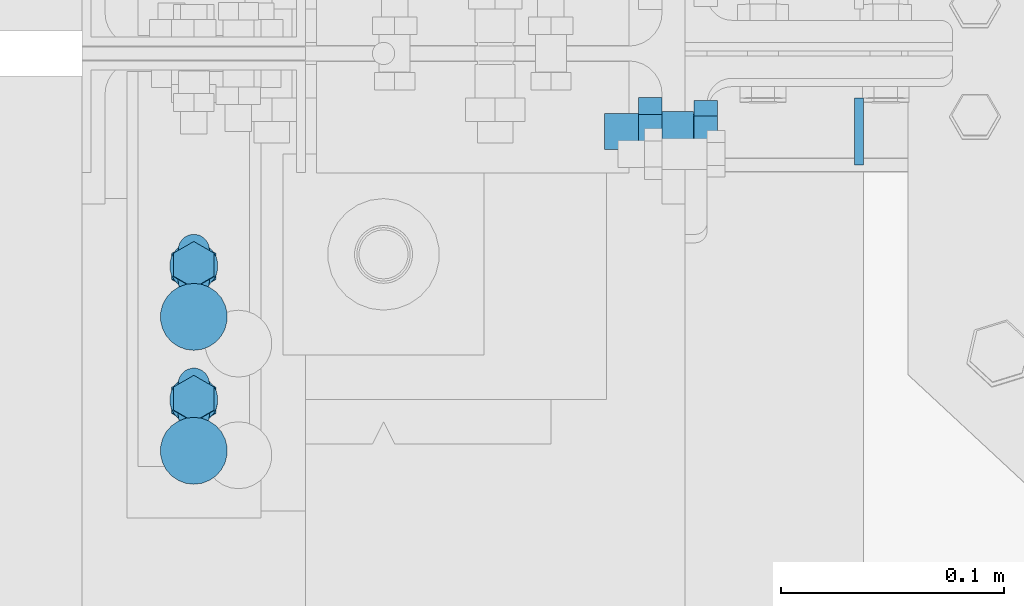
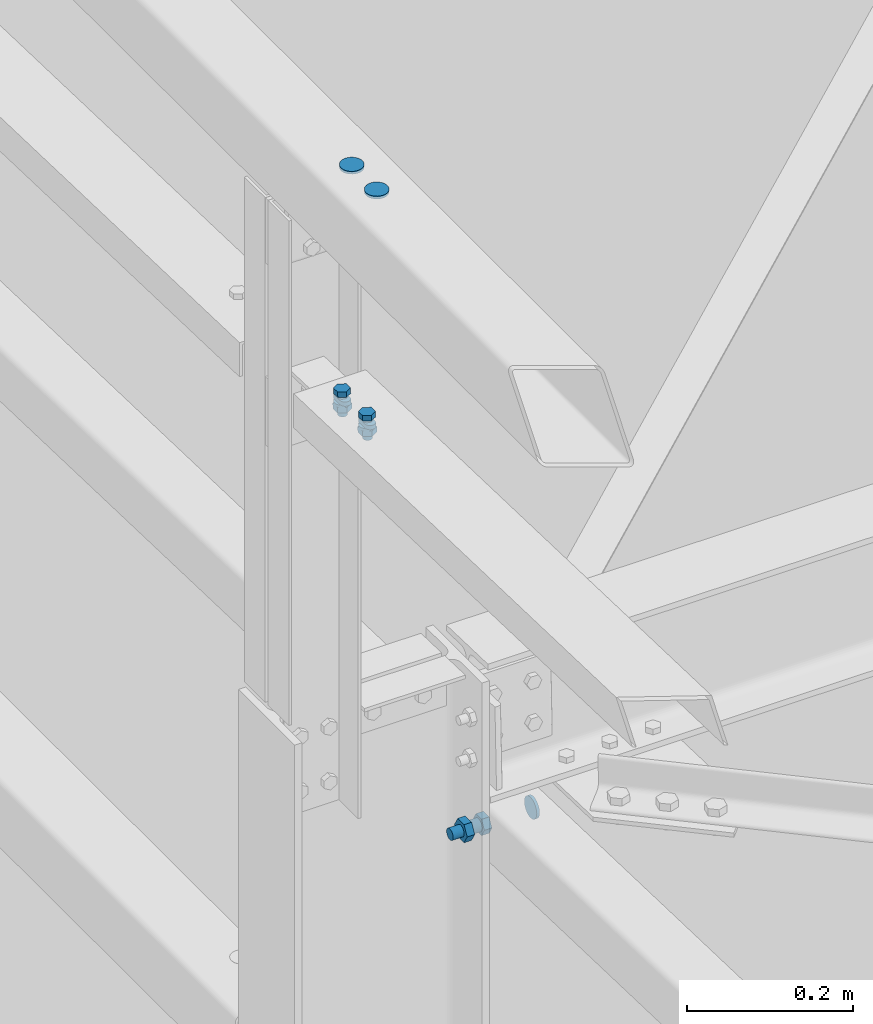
# One storey, part 234 of 362: 4 mechanical fasteners.
"""IFC2X3 building model written with IfcOpenShell, lengths in millimetres."""

from ifc_helpers import new_model, si_unit, frame, frame_2d, origin_with_axes, origin_2d_with_axis, place, context, subcontext, project, spatial, polyline, circle_curve, parameter, trimmed, segment, composite_curve, circle, outline, extrude, source, transform, mapped, material, type_object, element, save


model = new_model("IFC2X3")

# Units and contexts
model_context = context("Model", 3, precision=1e-05, world=origin_with_axes())
body_context = subcontext(model_context, "Body", "Model", "MODEL_VIEW")
ifc_project = project(units=[si_unit("LENGTHUNIT", "METRE", prefix="MILLI"), si_unit("AREAUNIT", "SQUARE_METRE"), si_unit("VOLUMEUNIT", "CUBIC_METRE"), si_unit("MASSUNIT", "GRAM", prefix="KILO"), si_unit("TIMEUNIT", "SECOND"), si_unit("PLANEANGLEUNIT", "RADIAN"), si_unit("SOLIDANGLEUNIT", "STERADIAN"), si_unit("THERMODYNAMICTEMPERATUREUNIT", "DEGREE_CELSIUS"), si_unit("LUMINOUSINTENSITYUNIT", "LUMEN")], contexts=[model_context])

# Site, building, storey
site_placement = place(None, origin_with_axes())
site = spatial("IfcSite", under=ifc_project, at=site_placement, Name="Undefined", CompositionType="ELEMENT")
building_placement = place(site_placement, origin_with_axes())
building = spatial("IfcBuilding", under=site, at=building_placement, Name="Undefined", CompositionType="ELEMENT")
storey_placement = place(building_placement, origin_with_axes())
storey = spatial("IfcBuildingStorey", under=building, at=storey_placement, Name="Undefined", CompositionType="ELEMENT", Elevation=0.0)

# Mechanical fasteners
ifc_material_1 = material(Name="6.8")
mechanical_fastener_type = type_object("IfcMechanicalFastenerType", Name="Bolt assembly")
shared_shape_1 = source(origin_with_axes(), body_context, "Body", "SweptSolid", [
    extrude(circle(Radius=15.0, at=origin_2d_with_axis()), frame((0.0, 0.0, 0.0), z_axis=(0.0, 1.0, 0.0), x_axis=(1.0, 0.0, 0.0)), (0.0, 0.0, 1.0), 4.1),
])
mechanical_fastener_1_placement = place(storey_placement, frame((170.0, 11365.0, 7452.72187803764), z_axis=(0.0, 0.0, -1.0), x_axis=(0.0, -1.0, 0.0)))
element("IfcMechanicalFastener", 1, at=mechanical_fastener_1_placement, inside=storey, type_object=mechanical_fastener_type, material=ifc_material_1, Name="Bolt assembly", NominalDiameter=30.0, NominalLength=4.0, context=body_context, shape_type="MappedRepresentation", body=[
    mapped(shared_shape_1, transform((0.0, 0.0, 0.0))),
])
mechanical_fastener_2_placement = place(storey_placement, frame((-129.999999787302, 11222.0, 8550.0), z_axis=(-1.0, 0.0, 0.0), x_axis=(0.0, 1.0, 0.0)))
element("IfcMechanicalFastener", 2, at=mechanical_fastener_2_placement, inside=storey, type_object=mechanical_fastener_type, material=ifc_material_1, Name="Bolt assembly", NominalDiameter=30.0, NominalLength=4.0, context=body_context, shape_type="MappedRepresentation", body=[
    mapped(shared_shape_1, transform((0.0, 0.0, 0.0))),
    mapped(shared_shape_1, transform((60.0, 0.0, 0.0))),
])
ifc_material_2 = material(Name="8.8-SB-ZINGUE")
shared_shape_2 = source(origin_with_axes(), body_context, "Body", "SweptSolid", [
    extrude(circle(Radius=9.0, at=origin_2d_with_axis()), frame((0.0, -0.100011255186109, 0.0), z_axis=(0.0, 1.0, 0.0), x_axis=(1.0, 0.0, 0.0)), (0.0, 0.0, 1.0), 10.3),
    extrude(circle(Radius=9.0, at=origin_2d_with_axis()), frame((0.0, -3.89999843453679, 0.0), z_axis=(0.0, 1.0, 0.0), x_axis=(1.0, 0.0, 0.0)), (0.0, 0.0, 1.0), 4.0),
    extrude(outline(polyline([(13.85640646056, 0.0), (6.92820323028, 12.0000000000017), (-6.92820323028, 12.0000000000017), (-13.85640646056, 0.0), (-6.92820323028, -12.0000000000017), (6.92820323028, -12.0000000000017), (13.85640646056, 0.0)])), frame((0.0, -14.560000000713, 0.0), z_axis=(0.0, 1.0, 0.0), x_axis=(1.0, 0.0, 0.0)), (0.0, 0.0, 1.0), 10.56),
    extrude(circle(Radius=8.0, at=origin_2d_with_axis()), frame((0.0, -3.99999923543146, 0.0), z_axis=(0.0, 1.0, 0.0), x_axis=(1.0, 0.0, 0.0)), (0.0, 0.0, 1.0), 40.0),
    extrude(outline(polyline([(15.3344231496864, 0.0), (7.6672115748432, 13.2800000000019), (-7.6672115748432, 13.2800000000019), (-15.3344231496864, 0.0), (-7.6672115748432, -13.2800000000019), (7.6672115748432, -13.2800000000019), (15.3344231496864, 0.0)])), frame((0.0, 10.1999997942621, 0.0), z_axis=(0.0, 1.0, 0.0), x_axis=(1.0, 0.0, 0.0)), (0.0, 0.0, 1.0), 10.56),
])
mechanical_fastener_3_placement = place(storey_placement, frame((90.0, 11365.0, 7452.72187803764), z_axis=(0.0, 0.0, -1.0), x_axis=(0.0, -1.0, 0.0)))
element("IfcMechanicalFastener", 3, at=mechanical_fastener_3_placement, inside=storey, type_object=mechanical_fastener_type, material=ifc_material_2, Name="Bolt assembly", NominalDiameter=16.0, NominalLength=40.0, context=body_context, shape_type="MappedRepresentation", body=[
    mapped(shared_shape_2, transform((0.0, 0.0, 0.0))),
])
shared_shape_3 = source(origin_with_axes(), body_context, "Body", "SweptSolid", [
    extrude(circle(Radius=7.0, at=origin_2d_with_axis()), frame((0.0, -3.89999843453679, 0.0), z_axis=(0.0, 1.0, 0.0), x_axis=(1.0, 0.0, 0.0)), (0.0, 0.0, 1.0), 4.0),
    extrude(outline(composite_curve([segment(polyline([(-7.0, 7.0), (7.0, 7.0)]), True, "CONTINUOUS"), segment(trimmed(circle_curve(frame_2d((7.0, 0.0), x_axis=(0.0, 1.0)), 7.0), [parameter(0.0)], [parameter(3.14159265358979)], False, "PARAMETER"), True, "CONTINUOUS"), segment(polyline([(7.0, -7.0), (-7.0, -7.0)]), True, "CONTINUOUS"), segment(trimmed(circle_curve(frame_2d((-7.0, 0.0), x_axis=(0.0, -1.0)), 7.0), [parameter(0.0)], [parameter(3.14159265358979)], False, "PARAMETER"), True, "DISCONTINUOUS")], self_intersect=False)), frame((0.0, -0.100011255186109, 0.0), z_axis=(0.0, 1.0, 0.0), x_axis=(1.0, 0.0, 0.0)), (0.0, 0.0, 1.0), 6.1),
    extrude(outline(polyline([(10.39230484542, 0.0), (5.19615242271, 9.00000000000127), (-5.19615242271, 9.00000000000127), (-10.39230484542, 0.0), (-5.19615242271, -9.00000000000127), (5.19615242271, -9.00000000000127), (10.39230484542, 0.0)])), frame((0.0, -11.9199984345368, 0.0), z_axis=(0.0, 1.0, 0.0), x_axis=(1.0, 0.0, 0.0)), (0.0, 0.0, 1.0), 7.92),
    extrude(circle(Radius=6.0, at=origin_2d_with_axis()), frame((0.0, -3.99999923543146, 0.0), z_axis=(0.0, 1.0, 0.0), x_axis=(1.0, 0.0, 0.0)), (0.0, 0.0, 1.0), 30.0),
    extrude(circle(Radius=10.8, at=origin_2d_with_axis()), frame((0.0, 6.0, 0.0), z_axis=(0.0, 1.0, 0.0), x_axis=(1.0, 0.0, 0.0)), (0.0, 0.0, 1.0), 3.96),
    extrude(outline(polyline([(11.5008173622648, 0.0), (5.7504086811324, 9.96000000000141), (-5.7504086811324, 9.96000000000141), (-11.5008173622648, 0.0), (-5.7504086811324, -9.96000000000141), (5.7504086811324, -9.96000000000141), (11.5008173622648, 0.0)])), frame((0.0, 9.9600084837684, 0.0), z_axis=(0.0, 1.0, 0.0), x_axis=(1.0, 0.0, 0.0)), (0.0, 0.0, 1.0), 7.92),
])
mechanical_fastener_4_placement = place(storey_placement, frame((-129.999999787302, 11245.0444201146, 8197.86935261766), z_axis=(-1.0, 0.0, 0.0), x_axis=(0.0, 0.99950644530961, -0.0314144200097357)))
element("IfcMechanicalFastener", 4, at=mechanical_fastener_4_placement, inside=storey, type_object=mechanical_fastener_type, material=ifc_material_2, Name="Bolt assembly", NominalDiameter=12.0, NominalLength=30.0, context=body_context, shape_type="MappedRepresentation", body=[
    mapped(shared_shape_3, transform((0.0, 0.0, 0.0))),
    mapped(shared_shape_3, transform((60.0, 0.0, 0.0))),
])

save(model, "model.ifc")
